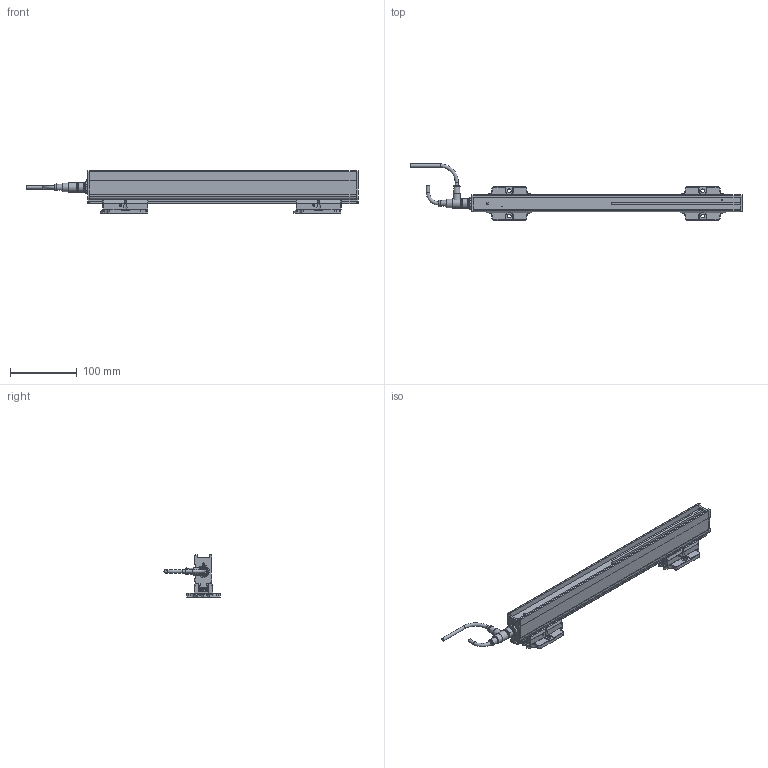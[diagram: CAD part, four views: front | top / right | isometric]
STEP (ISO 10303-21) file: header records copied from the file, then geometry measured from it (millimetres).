
FILE_DESCRIPTION(('Bauteilbeschreibung','HiCAD-Model','HiCAD-STEP-TRANSLATION','Bauteilbeschreibung'),'2;1');
FILE_NAME('PERFORMAXIQEASY_330-420_3D.STP','2014-03-05T11:15:51+00:00',('Konstrukteur'),('Konstrukteur Firma GmbH'),' HiCAD 2011, Step 1600.0 ','HiCAD 2011','confidential');
FILE_SCHEMA(('AUTOMOTIVE_DESIGN { 1 2 10303 214 0 1 1 1 }'));
Products named in the file (38): PERFORMAXIQEASY_330_420_3D; A_PERFORMAX IQ EASY 330_420; A_PERFORMAX IQ EASY SPEED; A_CAP DE; A_CAP CE_5; GROUP; PIN; GROUP0; PIN0; LED_2C_3MM; LED02C03MM; A519020315_CONNECTOR APPLIANCE; A_INSERT; A_CONTACTS; A_HOUSING; A_PROFILE; A_POTTING; A532000100_BRACKET BARS_ MOUNT; A_SIDE PIECE; A0SIDE0PIECE; A_BRACKET SMALL; A_SLIDE PIECE; A5320001000BRACKET0BARS00MOUNT; A0SIDE0PIECE0; A0SIDE0PIECE1; A0BRACKET0SMALL; A0SLIDE0PIECE; A_CONNECTOR STRAIGHT; EXTRUDED SOLID_0; DRAAD GEBOGEN; REVOLVED SOLID_1; REVOLVED SOLID_3; A_CONNECTOR ANGLED; REVOLVED0SOLID01; EXTRUDED0SOLID00; C_EDGE SWEEP_0; REVOLVED SOLID_2; REVOLVED0SOLID03
Assembly tree (37 placements, depth 5):
  PERFORMAXIQEASY_330_420_3D
    A_PERFORMAX IQ EASY 330_420
      A_PERFORMAX IQ EASY SPEED
        A_CAP DE
        A_CAP CE_5
        GROUP
          PIN
        GROUP0
          PIN0
        LED_2C_3MM
        LED02C03MM
        A519020315_CONNECTOR APPLIANCE
          A_INSERT
          A_CONTACTS
          A_HOUSING
        A_PROFILE
        A_POTTING
      A532000100_BRACKET BARS_ MOUNT
        A_SIDE PIECE
        A0SIDE0PIECE
        A_BRACKET SMALL
        A_SLIDE PIECE
      A5320001000BRACKET0BARS00MOUNT
        A0SIDE0PIECE0
        A0SIDE0PIECE1
        A0BRACKET0SMALL
        A0SLIDE0PIECE
      A_CONNECTOR STRAIGHT
        EXTRUDED SOLID_0
        DRAAD GEBOGEN
        REVOLVED SOLID_1
        REVOLVED SOLID_3
      A_CONNECTOR ANGLED
        REVOLVED0SOLID01
        EXTRUDED0SOLID00
        C_EDGE SWEEP_0
        REVOLVED SOLID_2
        REVOLVED0SOLID03
Bounding box: 497.89 x 84.28 x 63.13 mm (x, y, z)
Volume: 465994.8 mm3; surface area: 145856.9 mm2
Topology: 33 solids, 33 shells, 1911 faces, 4878 edges, 2931 vertices
Faces by surface type: cylinder 777, plane 751, sphere 112, torus 111, bspline 88, cone 72
Full cylindrical faces by diameter (mm): 0.8 x10, 1 x5, 2.387 x4, 3 x11, 3.1 x1, 4.2 x2, 5 x4, 5.5 x10, 8 x2, 8.2 x1, 8.4 x2, 8.945 x1, 9 x2, 10.2 x1, 10.5 x3, 11 x1, 12 x3, 12.8 x1, 13.8 x4, 14.5 x3
Entity records: 87383 total; most frequent: CARTESIAN_POINT 19760, DIRECTION 9521, ORIENTED_EDGE 9176, EDGE_CURVE 4588, COLOUR_RGB 4377, PRESENTATION_STYLE_ASSIGNMENT 4377, OVER_RIDING_STYLED_ITEM 4349, CURVE_STYLE 4344
